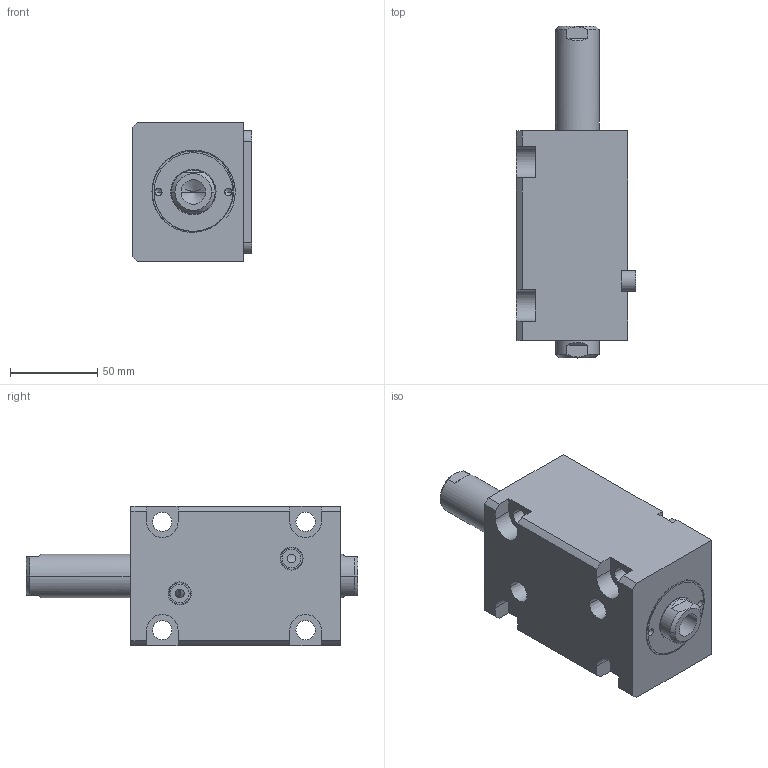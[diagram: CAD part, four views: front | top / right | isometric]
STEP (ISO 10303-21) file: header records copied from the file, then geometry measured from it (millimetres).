
FILE_DESCRIPTION (( 'STEP AP214' ), '1' );
FILE_NAME ('chtb-lw40x50n_asm.STEP', '2018-06-05T01:46:56', ( 'Windows' ), ( 'Microsoft' ), 'SwSTEP 2.0', 'SolidWorks 2015', '' );
FILE_SCHEMA (( 'AUTOMOTIVE_DESIGN' ));
Length unit declared in the file: millimetre
Products named in the file (5): CHTB-SW40X50NHSG; CHTB-SD40QG; CHTB-LW40X50NBT; CHTB-LA40PJ; chtb-lw40x50n_asm
Assembly tree (4 placements, depth 2):
  chtb-lw40x50n_asm
    CHTB-LA40PJ
    CHTB-LW40X50NBT
    CHTB-SD40QG
    CHTB-SW40X50NHSG
Bounding box: 68.5 x 190 x 80 mm (x, y, z)
Volume: 566741.5 mm3; surface area: 100696.4 mm2
Topology: 4 solids, 4 shells, 172 faces, 462 edges, 304 vertices
Faces by surface type: cylinder 77, plane 52, cone 17, bspline 14, torus 12
Entity records: 10654 total; most frequent: CARTESIAN_POINT 6188, ORIENTED_EDGE 904, DIRECTION 853, EDGE_CURVE 452, AXIS2_PLACEMENT_3D 340, VERTEX_POINT 304, EDGE_LOOP 204, CIRCLE 175
